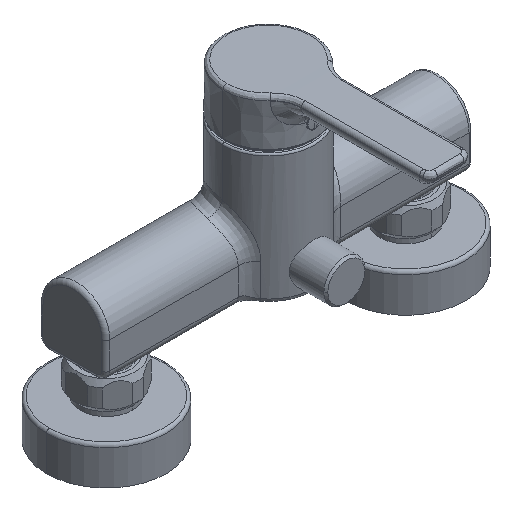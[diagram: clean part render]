
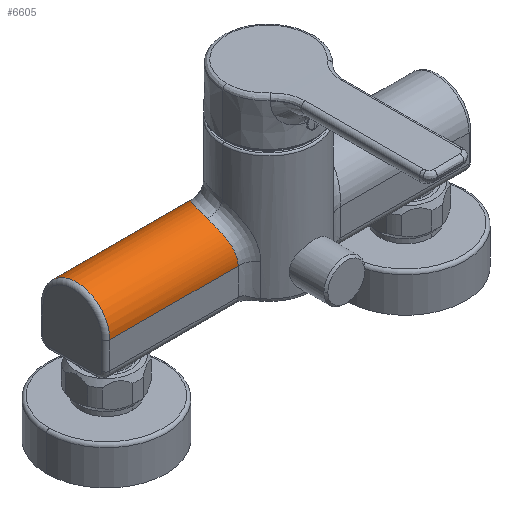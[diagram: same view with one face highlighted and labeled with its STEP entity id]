
A CAD part, isometric view. The second image highlights one B-rep face of the part: STEP entity #6605.
In plain terms, the highlighted cylindrical face has radius 16.75 mm (diameter 33.5 mm), a partial arc.
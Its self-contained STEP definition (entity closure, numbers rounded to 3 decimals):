
#1842=CARTESIAN_POINT('',(-90.,0.,0.));
#1843=DIRECTION('',(-1.,0.,0.));
#1844=DIRECTION('',(0.,-1.,0.));
#1845=AXIS2_PLACEMENT_3D('',#1842,#1843,#1844);
#1847=DIRECTION('',(1.,0.,0.));
#1848=VECTOR('',#1847,83.987);
#1849=CARTESIAN_POINT('',(-90.,16.75,0.));
#1850=LINE('',#1849,#1848);
#1851=CARTESIAN_POINT('',(-6.014,16.75,
0.003));
#1852=CARTESIAN_POINT('',(-6.134,16.75,
0.096));
#1853=CARTESIAN_POINT('',(-6.579,16.747,
0.446));
#1854=CARTESIAN_POINT('',(-7.381,16.722,1.086));
#1855=CARTESIAN_POINT('',(-8.453,16.644,1.954));
#1856=CARTESIAN_POINT('',(-9.626,16.505,2.916));
#1857=CARTESIAN_POINT('',(-10.91,16.285,3.975));
#1858=CARTESIAN_POINT('',(-12.316,15.959,5.139));
#1859=CARTESIAN_POINT('',(-13.855,15.496,6.413));
#1860=CARTESIAN_POINT('',(-15.537,14.851,7.803));
#1861=CARTESIAN_POINT('',(-17.373,13.967,9.308));
#1862=CARTESIAN_POINT('',(-19.37,12.76,10.923));
#1863=CARTESIAN_POINT('',(-21.117,11.422,12.301));
#1864=CARTESIAN_POINT('',(-22.556,10.083,13.4));
#1865=CARTESIAN_POINT('',(-23.651,8.909,14.209));
#1866=CARTESIAN_POINT('',(-24.686,7.625,14.939));
#1867=CARTESIAN_POINT('',(-25.613,6.279,15.552));
#1868=CARTESIAN_POINT('',(-26.425,4.892,16.041));
#1869=CARTESIAN_POINT('',(-27.103,3.52,16.396));
#1870=CARTESIAN_POINT('',(-27.674,2.13,16.633));
#1871=CARTESIAN_POINT('',(-28.132,0.762,
16.751));
#1872=CARTESIAN_POINT('',(-28.494,-0.61,
16.757));
#1873=CARTESIAN_POINT('',(-28.759,-1.962,
16.653));
#1874=CARTESIAN_POINT('',(-28.933,-3.299,
16.44));
#1875=CARTESIAN_POINT('',(-28.994,-4.17,
16.229));
#1876=CARTESIAN_POINT('',(-29.01,-4.6,
16.106));
#1878=CARTESIAN_POINT('',(-29.01,-4.6,
16.106));
#1879=CARTESIAN_POINT('',(-29.027,-5.016,
15.987));
#1880=CARTESIAN_POINT('',(-29.035,-5.837,
15.718));
#1881=CARTESIAN_POINT('',(-28.976,-7.054,
15.212));
#1882=CARTESIAN_POINT('',(-28.851,-8.242,
14.603));
#1883=CARTESIAN_POINT('',(-28.66,-9.419,
13.874));
#1884=CARTESIAN_POINT('',(-28.412,-10.543,
13.042));
#1885=CARTESIAN_POINT('',(-28.109,-11.626,
12.087));
#1886=CARTESIAN_POINT('',(-27.771,-12.628,
11.037));
#1887=CARTESIAN_POINT('',(-27.41,-13.545,
9.89));
#1888=CARTESIAN_POINT('',(-27.05,-14.351,
8.679));
#1889=CARTESIAN_POINT('',(-26.71,-15.038,
7.423));
#1890=CARTESIAN_POINT('',(-26.406,-15.603,
6.144));
#1891=CARTESIAN_POINT('',(-26.155,-16.044,
4.872));
#1892=CARTESIAN_POINT('',(-25.959,-16.373,
3.609));
#1893=CARTESIAN_POINT('',(-25.823,-16.595,
2.383));
#1894=CARTESIAN_POINT('',(-25.744,-16.722,
1.178));
#1895=CARTESIAN_POINT('',(-25.727,-16.75,0.392));
#1896=CARTESIAN_POINT('',(-25.727,-16.75,0.));
#1966=DIRECTION('',(1.,0.,0.));
#1967=VECTOR('',#1966,64.273);
#1968=CARTESIAN_POINT('',(-90.,-16.75,0.));
#1969=LINE('',#1968,#1967);
#3829=CARTESIAN_POINT('',(-90.,-16.75,0.));
#3830=CARTESIAN_POINT('',(-90.,16.75,0.));
#3831=VERTEX_POINT('',#3829);
#3832=VERTEX_POINT('',#3830);
#3881=VERTEX_POINT('',#1878);
#3882=VERTEX_POINT('',#1896);
#3883=VERTEX_POINT('',#1851);
#6591=CARTESIAN_POINT('',(-92.,0.,0.));
#6592=DIRECTION('',(1.,0.,0.));
#6593=DIRECTION('',(0.,0.,-1.));
#6594=AXIS2_PLACEMENT_3D('',#6591,#6592,#6593);
#6595=CYLINDRICAL_SURFACE('',#6594,16.75);
#6596=ORIENTED_EDGE('',*,*,#6584,.T.);
#6597=ORIENTED_EDGE('',*,*,#6538,.T.);
#6598=ORIENTED_EDGE('',*,*,#6517,.T.);
#6600=ORIENTED_EDGE('',*,*,#6599,.T.);
#6602=ORIENTED_EDGE('',*,*,#6601,.F.);
#6603=EDGE_LOOP('',(#6596,#6597,#6598,#6600,#6602));
#6604=FACE_OUTER_BOUND('',#6603,.F.);
#6605=ADVANCED_FACE('',(#6604),#6595,.T.);
#1846=CIRCLE('',#1845,16.75);
#1877=B_SPLINE_CURVE_WITH_KNOTS('',3,(#1851,#1852,#1853,#1854,#1855,#1856,#1857,
#1858,#1859,#1860,#1861,#1862,#1863,#1864,#1865,#1866,#1867,#1868,#1869,#1870,
#1871,#1872,#1873,#1874,#1875,#1876),.UNSPECIFIED.,.F.,.F.,(4,1,1,1,1,1,1,1,1,1,
1,1,1,1,1,1,1,1,1,1,1,1,1,4),(0.,0.012,0.044,
0.078,0.117,0.159,0.205,
0.256,0.312,0.375,0.445,
0.524,0.569,0.614,0.659,
0.704,0.745,0.785,0.822,
0.86,0.895,0.931,0.965,1.),
.UNSPECIFIED.);
#1897=B_SPLINE_CURVE_WITH_KNOTS('',3,(#1878,#1879,#1880,#1881,#1882,#1883,#1884,
#1885,#1886,#1887,#1888,#1889,#1890,#1891,#1892,#1893,#1894,#1895,#1896),
.UNSPECIFIED.,.F.,.F.,(4,1,1,1,1,1,1,1,1,1,1,1,1,1,1,1,4),(0.,0.054,
0.108,0.166,0.223,0.286,0.348,
0.415,0.482,0.55,0.618,0.685,
0.751,0.815,0.879,0.94,1.),.UNSPECIFIED.);
#6517=EDGE_CURVE('',#3883,#3881,#1877,.T.);
#6538=EDGE_CURVE('',#3832,#3883,#1850,.T.);
#6584=EDGE_CURVE('',#3831,#3832,#1846,.T.);
#6599=EDGE_CURVE('',#3881,#3882,#1897,.T.);
#6601=EDGE_CURVE('',#3831,#3882,#1969,.T.);
